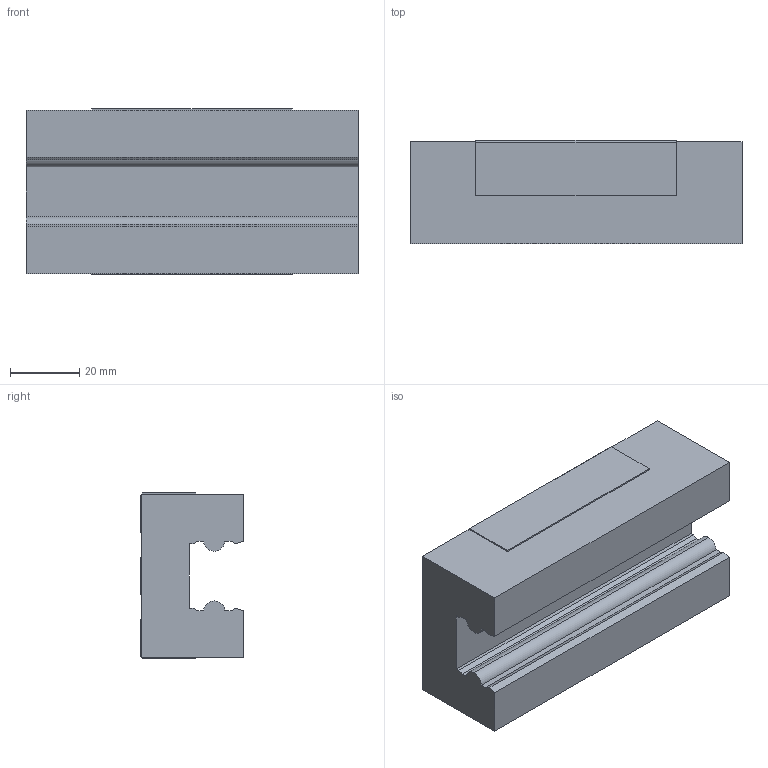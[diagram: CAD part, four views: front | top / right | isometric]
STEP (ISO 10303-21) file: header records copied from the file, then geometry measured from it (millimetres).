
FILE_DESCRIPTION (( 'STEP AP214' ), '1' );
FILE_NAME ('GNS-2500.step', '2021-10-15T05:21:07', ( '' ), ( '' ), 'SwSTEP 2.0', 'SolidWorks 2010', '' );
FILE_SCHEMA (( 'AUTOMOTIVE_DESIGN' ));
Length unit declared in the file: millimetre
Products named in the file (1): GNS-2500
Bounding box: 96 x 29.9 x 48 mm (x, y, z)
Volume: 106349.5 mm3; surface area: 21547.8 mm2
Topology: 1 solids, 1 shells, 75 faces, 195 edges, 118 vertices
Faces by surface type: plane 48, cone 16, cylinder 11
Entity records: 2280 total; most frequent: CARTESIAN_POINT 381, ORIENTED_EDGE 374, DIRECTION 369, EDGE_CURVE 187, LINE 157, VECTOR 157, VERTEX_POINT 118, AXIS2_PLACEMENT_3D 106
